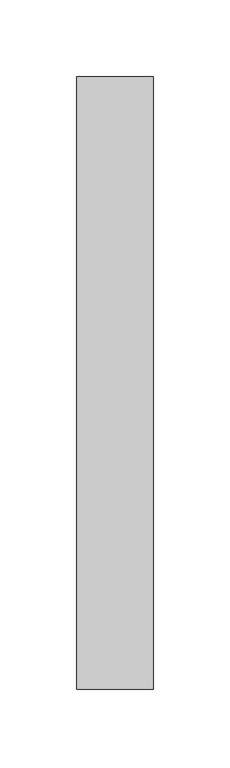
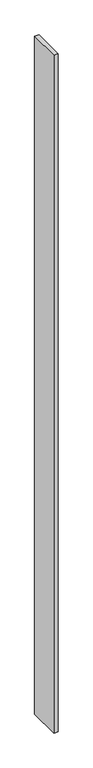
"""IFC4 building model written with IfcOpenShell, lengths in millimetres: proxy geometry, Menneau extrémité façade."""

from ifc_helpers import new_model, si_unit, frame, origin, place, context, project, spatial, polyline, outline, extrude, source, transform, mapped, element, save


def generic_models_21f26d20(model_context):
    return source(origin(), model_context, "Body", "SweptSolid", [
        extrude(outline(polyline([(-3899.9988284, -10900.0), (-3949.9987968, -10900.0), (-3949.9987968, -10500.0), (-3899.9988284, -10500.0), (-3899.9988284, -10900.0)])), frame((0.0, 0.0, 3130.0), z_axis=(0.0, 0.0, 1.0), x_axis=(1.0, 0.0, 0.0)), (0.0, 0.0, 1.0), 8630.0),
    ])


if __name__ == "__main__":
    model = new_model("IFC4")
    model_context = context("Model", 3, world=origin())
    ifc_project = project(units=[si_unit("LENGTHUNIT", "METRE", prefix="MILLI")], contexts=[model_context])
    site = spatial("IfcSite", under=ifc_project)
    building = spatial("IfcBuilding", under=site)
    placement = place(None, origin())
    generic_models_shape = generic_models_21f26d20(model_context)
    element("IfcBuildingElementProxy", 1, Name="Menneau extrémité façade", ObjectType="Menneau extrémité façade", at=placement, inside=building, context=model_context, shape_type="MappedRepresentation", body=[
        mapped(generic_models_shape, transform((0.0, 0.0, 0.0), x_axis=(1.0, 0.0, 0.0), y_axis=(0.0, 1.0, 0.0), z_axis=(0.0, 0.0, 1.0))),
    ])
    save(model, "model.ifc")
